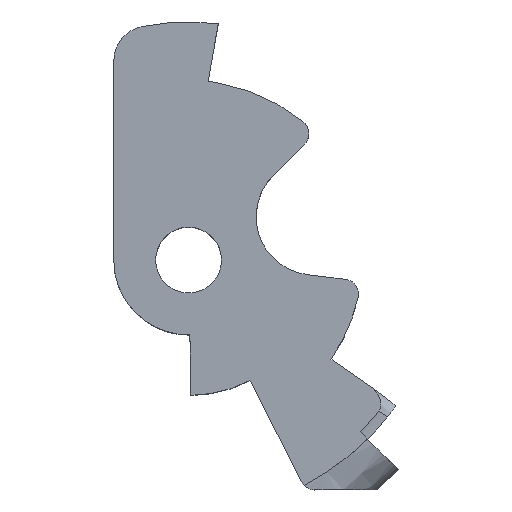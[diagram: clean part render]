
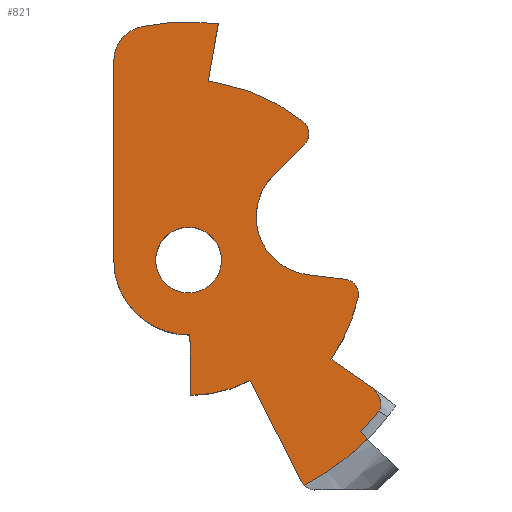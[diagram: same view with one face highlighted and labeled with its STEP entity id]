
A CAD part, top view. The second image highlights one B-rep face of the part: STEP entity #821.
In plain terms, the highlighted planar face has unit normal (0, 0, 1).
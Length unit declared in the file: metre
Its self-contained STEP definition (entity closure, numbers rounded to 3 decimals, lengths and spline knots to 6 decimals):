
#25=PLANE('',#902);
#33=LINE('',#1295,#76);
#38=LINE('',#1313,#81);
#44=LINE('',#1343,#87);
#48=LINE('',#1375,#91);
#52=LINE('',#1402,#95);
#56=LINE('',#1426,#99);
#60=LINE('',#1455,#103);
#65=LINE('',#1493,#108);
#67=LINE('',#1496,#110);
#76=VECTOR('',#939,1.);
#81=VECTOR('',#950,1.);
#87=VECTOR('',#962,1.);
#91=VECTOR('',#974,1.);
#95=VECTOR('',#986,1.);
#99=VECTOR('',#992,1.);
#103=VECTOR('',#998,1.);
#108=VECTOR('',#1023,1.);
#110=VECTOR('',#1027,1.);
#118=CIRCLE('',#844,0.00762);
#121=CIRCLE('',#853,0.010835);
#125=CIRCLE('',#860,0.005743);
#127=CIRCLE('',#864,0.003175);
#129=CIRCLE('',#870,0.007366);
#131=CIRCLE('',#873,0.002478);
#132=CIRCLE('',#875,0.001397);
#136=CIRCLE('',#883,0.000635);
#138=CIRCLE('',#886,0.000635);
#140=CIRCLE('',#889,0.000635);
#142=CIRCLE('',#894,0.010107);
#144=CIRCLE('',#897,0.0015);
#145=CIRCLE('',#900,0.010311);
#165=ELLIPSE('',#901,0.000899,0.000635);
#372=ORIENTED_EDGE('',*,*,#521,.F.);
#373=ORIENTED_EDGE('',*,*,#460,.F.);
#374=ORIENTED_EDGE('',*,*,#518,.T.);
#375=ORIENTED_EDGE('',*,*,#540,.T.);
#376=ORIENTED_EDGE('',*,*,#512,.T.);
#377=ORIENTED_EDGE('',*,*,#520,.T.);
#378=ORIENTED_EDGE('',*,*,#504,.T.);
#379=ORIENTED_EDGE('',*,*,#538,.T.);
#380=ORIENTED_EDGE('',*,*,#444,.T.);
#381=ORIENTED_EDGE('',*,*,#528,.F.);
#382=ORIENTED_EDGE('',*,*,#526,.T.);
#383=ORIENTED_EDGE('',*,*,#546,.T.);
#384=ORIENTED_EDGE('',*,*,#548,.T.);
#385=ORIENTED_EDGE('',*,*,#497,.T.);
#386=ORIENTED_EDGE('',*,*,#493,.T.);
#387=ORIENTED_EDGE('',*,*,#488,.T.);
#388=ORIENTED_EDGE('',*,*,#483,.T.);
#389=ORIENTED_EDGE('',*,*,#478,.T.);
#390=ORIENTED_EDGE('',*,*,#543,.T.);
#391=ORIENTED_EDGE('',*,*,#463,.T.);
#392=ORIENTED_EDGE('',*,*,#467,.T.);
#393=ORIENTED_EDGE('',*,*,#551,.F.);
#394=ORIENTED_EDGE('',*,*,#552,.F.);
#444=EDGE_CURVE('',#574,#573,#118,.T.);
#460=EDGE_CURVE('',#586,#587,#33,.T.);
#463=EDGE_CURVE('',#590,#589,#121,.T.);
#467=EDGE_CURVE('',#589,#592,#38,.T.);
#478=EDGE_CURVE('',#602,#601,#44,.T.);
#483=EDGE_CURVE('',#606,#602,#125,.T.);
#488=EDGE_CURVE('',#610,#606,#48,.T.);
#493=EDGE_CURVE('',#614,#610,#127,.T.);
#497=EDGE_CURVE('',#615,#614,#52,.T.);
#504=EDGE_CURVE('',#624,#623,#56,.T.);
#512=EDGE_CURVE('',#632,#631,#60,.T.);
#518=EDGE_CURVE('',#586,#636,#129,.T.);
#520=EDGE_CURVE('',#631,#624,#131,.T.);
#521=EDGE_CURVE('',#637,#637,#132,.T.);
#526=EDGE_CURVE('',#640,#642,#65,.T.);
#528=EDGE_CURVE('',#640,#573,#67,.T.);
#538=EDGE_CURVE('',#623,#574,#136,.T.);
#540=EDGE_CURVE('',#636,#632,#138,.T.);
#543=EDGE_CURVE('',#601,#590,#140,.T.);
#546=EDGE_CURVE('',#642,#649,#142,.T.);
#548=EDGE_CURVE('',#649,#615,#144,.T.);
#551=EDGE_CURVE('',#650,#592,#145,.F.);
#552=EDGE_CURVE('',#587,#650,#165,.F.);
#573=VERTEX_POINT('',#1238);
#574=VERTEX_POINT('',#1240);
#586=VERTEX_POINT('',#1294);
#587=VERTEX_POINT('',#1296);
#589=VERTEX_POINT('',#1301);
#590=VERTEX_POINT('',#1303);
#592=VERTEX_POINT('',#1312);
#601=VERTEX_POINT('',#1342);
#602=VERTEX_POINT('',#1344);
#606=VERTEX_POINT('',#1360);
#610=VERTEX_POINT('',#1376);
#614=VERTEX_POINT('',#1392);
#615=VERTEX_POINT('',#1399);
#623=VERTEX_POINT('',#1425);
#624=VERTEX_POINT('',#1427);
#631=VERTEX_POINT('',#1454);
#632=VERTEX_POINT('',#1456);
#636=VERTEX_POINT('',#1475);
#637=VERTEX_POINT('',#1482);
#640=VERTEX_POINT('',#1488);
#642=VERTEX_POINT('',#1492);
#649=VERTEX_POINT('',#1571);
#650=VERTEX_POINT('',#1583);
#738=EDGE_LOOP('',(#372));
#739=EDGE_LOOP('',(#373,#374,#375,#376,#377,#378,#379,#380,#381,#382,#383,
#384,#385,#386,#387,#388,#389,#390,#391,#392,#393,#394));
#778=FACE_BOUND('',#738,.T.);
#779=FACE_BOUND('',#739,.T.);
#821=ADVANCED_FACE('',(#778,#779),#25,.T.);
#844=AXIS2_PLACEMENT_3D('',#1239,#920,#921);
#853=AXIS2_PLACEMENT_3D('',#1302,#944,#945);
#860=AXIS2_PLACEMENT_3D('',#1359,#968,#969);
#864=AXIS2_PLACEMENT_3D('',#1391,#980,#981);
#870=AXIS2_PLACEMENT_3D('',#1476,#1004,#1005);
#873=AXIS2_PLACEMENT_3D('',#1479,#1010,#1011);
#875=AXIS2_PLACEMENT_3D('',#1481,#1014,#1015);
#883=AXIS2_PLACEMENT_3D('',#1557,#1037,#1038);
#886=AXIS2_PLACEMENT_3D('',#1560,#1043,#1044);
#889=AXIS2_PLACEMENT_3D('',#1564,#1050,#1051);
#894=AXIS2_PLACEMENT_3D('',#1572,#1061,#1062);
#897=AXIS2_PLACEMENT_3D('',#1575,#1067,#1068);
#900=AXIS2_PLACEMENT_3D('',#1584,#1074,#1075);
#901=AXIS2_PLACEMENT_3D('',#1595,#1076,#1077);
#902=AXIS2_PLACEMENT_3D('',#1596,#1078,#1079);
#920=DIRECTION('',(0.,0.,1.));
#921=DIRECTION('',(1.,0.,0.));
#939=DIRECTION('',(0.821,-0.571,0.));
#944=DIRECTION('',(0.,0.,1.));
#945=DIRECTION('',(1.,0.,0.));
#950=DIRECTION('',(-0.707,0.707,0.));
#962=DIRECTION('',(0.454,-0.891,0.));
#968=DIRECTION('',(0.,0.,1.));
#969=DIRECTION('',(1.,0.,0.));
#974=DIRECTION('',(0.017,-1.,0.));
#980=DIRECTION('',(0.,0.,1.));
#981=DIRECTION('',(1.,0.,0.));
#986=DIRECTION('',(0.,-1.,0.));
#992=DIRECTION('',(0.707,0.707,0.));
#998=DIRECTION('',(-0.993,0.122,0.));
#1004=DIRECTION('',(0.,0.,1.));
#1005=DIRECTION('',(1.,0.,0.));
#1010=DIRECTION('',(0.,0.,-1.));
#1011=DIRECTION('',(1.,0.,0.));
#1014=DIRECTION('',(0.,0.,1.));
#1015=DIRECTION('',(1.,0.,0.));
#1023=DIRECTION('',(0.174,0.985,0.));
#1027=DIRECTION('',(0.985,-0.174,0.));
#1037=DIRECTION('',(0.,0.,1.));
#1038=DIRECTION('',(1.,0.,0.));
#1043=DIRECTION('',(0.,0.,1.));
#1044=DIRECTION('',(1.,0.,0.));
#1050=DIRECTION('',(0.,0.,1.));
#1051=DIRECTION('',(1.,0.,0.));
#1061=DIRECTION('',(0.,0.,1.));
#1062=DIRECTION('',(1.,0.,0.));
#1067=DIRECTION('',(0.,0.,1.));
#1068=DIRECTION('',(1.,0.,0.));
#1074=DIRECTION('',(0.,0.,1.));
#1075=DIRECTION('',(1.,0.,0.));
#1076=DIRECTION('',(0.,0.,1.));
#1077=DIRECTION('',(-0.821,0.571,0.));
#1078=DIRECTION('',(0.,0.,1.));
#1079=DIRECTION('',(1.,0.,0.));
#1238=CARTESIAN_POINT('',(0.007038,0.007504,0.004575));
#1239=CARTESIAN_POINT('',(0.005715,0.,0.004575));
#1240=CARTESIAN_POINT('',(0.010591,0.005856,0.004575));
#1294=CARTESIAN_POINT('',(0.011761,-0.004208,0.004575));
#1295=CARTESIAN_POINT('',(0.011239,-0.003845,0.004575));
#1296=CARTESIAN_POINT('',(0.013428,-0.005369,0.004575));
#1301=CARTESIAN_POINT('',(0.013313,-0.007598,0.004575));
#1302=CARTESIAN_POINT('',(0.005664,0.000076,0.004575));
#1303=CARTESIAN_POINT('',(0.010618,-0.009559,0.004575));
#1312=CARTESIAN_POINT('',(0.013006,-0.007291,0.004575));
#1313=CARTESIAN_POINT('',(0.010924,-0.005209,0.004575));
#1342=CARTESIAN_POINT('',(0.010507,-0.009404,0.004575));
#1343=CARTESIAN_POINT('',(0.008322,-0.005117,0.004575));
#1344=CARTESIAN_POINT('',(0.008322,-0.005117,0.004575));
#1359=CARTESIAN_POINT('',(0.005715,0.,0.004575));
#1360=CARTESIAN_POINT('',(0.005815,-0.005742,0.004575));
#1375=CARTESIAN_POINT('',(0.005815,-0.005742,0.004575));
#1376=CARTESIAN_POINT('',(0.00577,-0.003175,0.004575));
#1391=CARTESIAN_POINT('',(0.005715,0.,0.004575));
#1392=CARTESIAN_POINT('',(0.00254,0.,0.004575));
#1399=CARTESIAN_POINT('',(0.00254,0.008442,0.004575));
#1402=CARTESIAN_POINT('',(0.00254,0.009279,0.004575));
#1425=CARTESIAN_POINT('',(0.010634,0.004919,0.004575));
#1426=CARTESIAN_POINT('',(0.009308,0.003593,0.004575));
#1427=CARTESIAN_POINT('',(0.009308,0.003593,0.004575));
#1454=CARTESIAN_POINT('',(0.010758,-0.000619,0.004575));
#1455=CARTESIAN_POINT('',(0.013026,-0.000898,0.004575));
#1456=CARTESIAN_POINT('',(0.012366,-0.000817,0.004575));
#1475=CARTESIAN_POINT('',(0.012909,-0.001583,0.004575));
#1476=CARTESIAN_POINT('',(0.005715,0.,0.004575));
#1479=CARTESIAN_POINT('',(0.01106,0.001841,0.004575));
#1481=CARTESIAN_POINT('',(0.005715,0.,0.004575));
#1482=CARTESIAN_POINT('',(0.007112,0.,0.004575));
#1488=CARTESIAN_POINT('',(0.006546,0.007591,0.004575));
#1492=CARTESIAN_POINT('',(0.006975,0.010028,0.004575));
#1493=CARTESIAN_POINT('',(0.006762,0.008816,0.004575));
#1496=CARTESIAN_POINT('',(0.006792,0.007548,0.004575));
#1557=CARTESIAN_POINT('',(0.010185,0.005368,0.004575));
#1560=CARTESIAN_POINT('',(0.012289,-0.001447,0.004575));
#1564=CARTESIAN_POINT('',(0.011073,-0.009116,0.004575));
#1571=CARTESIAN_POINT('',(0.003748,0.009914,0.004575));
#1572=CARTESIAN_POINT('',(0.005715,0.,0.004575));
#1575=CARTESIAN_POINT('',(0.00404,0.008442,0.004575));
#1583=CARTESIAN_POINT('',(0.01378,-0.006423,0.004575));
#1584=CARTESIAN_POINT('',(0.005715,0.,0.004575));
#1595=CARTESIAN_POINT('',(0.01306,-0.005886,0.004575));
#1596=CARTESIAN_POINT('',(0.005715,0.,0.004575));
